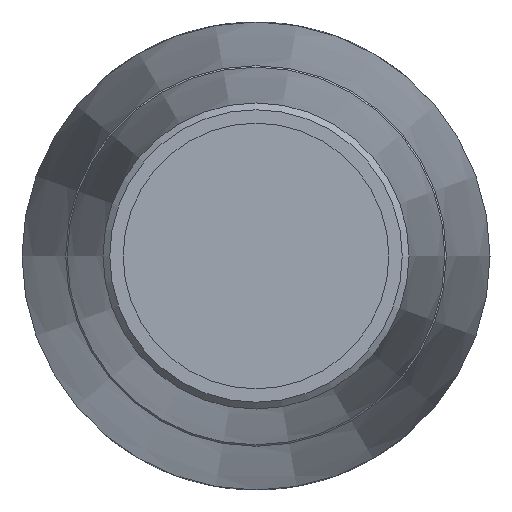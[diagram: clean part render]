
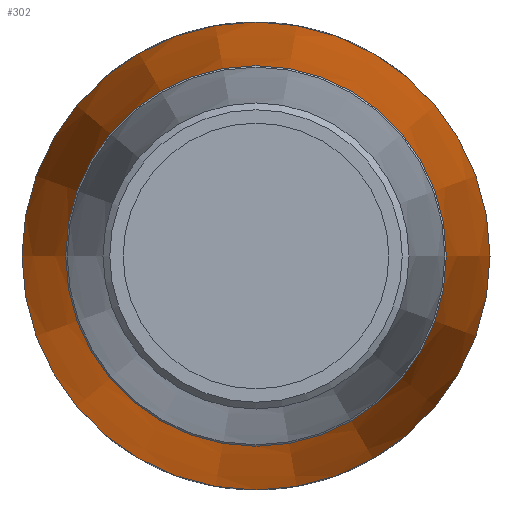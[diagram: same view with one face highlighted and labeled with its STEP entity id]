
A CAD part, left-side view. The second image highlights one B-rep face of the part: STEP entity #302.
In plain terms, the highlighted conical face has half-angle 5 degrees and reference radius 16.75 mm.
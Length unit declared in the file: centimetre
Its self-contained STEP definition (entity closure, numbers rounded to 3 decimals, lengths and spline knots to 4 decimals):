
#40=CONICAL_SURFACE('',#332,1.675,5.);
#52=FACE_BOUND('',#98,.T.);
#71=FACE_OUTER_BOUND('',#97,.T.);
#97=EDGE_LOOP('',(#213));
#98=EDGE_LOOP('',(#214));
#137=CIRCLE('',#331,1.5044);
#138=CIRCLE('',#333,1.85);
#155=VERTEX_POINT('',#469);
#156=VERTEX_POINT('',#472);
#181=EDGE_CURVE('',#155,#155,#137,.T.);
#182=EDGE_CURVE('',#156,#156,#138,.T.);
#213=ORIENTED_EDGE('',*,*,#182,.T.);
#214=ORIENTED_EDGE('',*,*,#181,.F.);
#302=ADVANCED_FACE('',(#71,#52),#40,.T.);
#331=AXIS2_PLACEMENT_3D('',#470,#381,#382);
#332=AXIS2_PLACEMENT_3D('',#471,#383,#384);
#333=AXIS2_PLACEMENT_3D('',#473,#385,#386);
#381=DIRECTION('center_axis',(-1.,0.,0.));
#382=DIRECTION('ref_axis',(0.,1.,0.));
#383=DIRECTION('center_axis',(1.,0.,0.));
#384=DIRECTION('ref_axis',(0.,-1.,0.));
#385=DIRECTION('center_axis',(-1.,0.,0.));
#386=DIRECTION('ref_axis',(0.,0.,-1.));
#469=CARTESIAN_POINT('',(-10.1002,-1.5044,0.));
#470=CARTESIAN_POINT('Origin',(-10.1002,0.,
0.));
#471=CARTESIAN_POINT('Origin',(-8.1497,0.,0.));
#472=CARTESIAN_POINT('',(-6.1495,-1.85,0.));
#473=CARTESIAN_POINT('Origin',(-6.1495,0.,0.));
